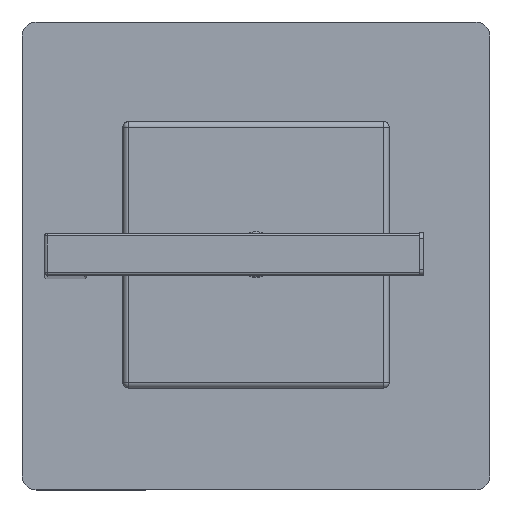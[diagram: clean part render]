
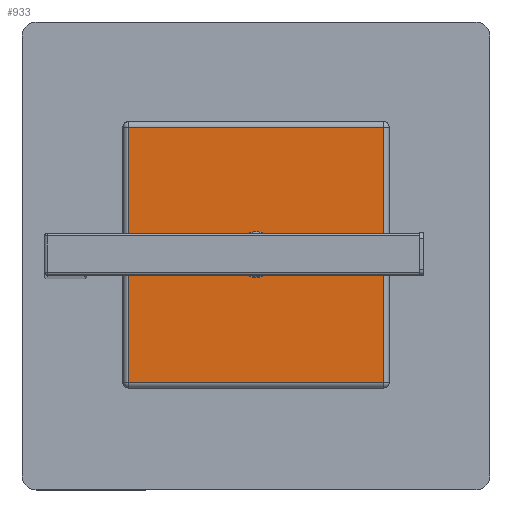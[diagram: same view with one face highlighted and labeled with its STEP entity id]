
A CAD part, top view. The second image highlights one B-rep face of the part: STEP entity #933.
In plain terms, the highlighted planar face has unit normal (0, 0, 1).
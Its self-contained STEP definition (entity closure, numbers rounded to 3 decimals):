
#18 = VERTEX_POINT ( 'NONE', #938 ) ;
#67 = ORIENTED_EDGE ( 'NONE', *, *, #231, .T. ) ;
#89 = DIRECTION ( 'NONE',  ( 1., 0., 0. ) ) ;
#175 = VECTOR ( 'NONE', #871, 1000. ) ;
#201 = CARTESIAN_POINT ( 'NONE',  ( 0., 0., 245. ) ) ;
#226 = CARTESIAN_POINT ( 'NONE',  ( -45.25, -45.25, 245. ) ) ;
#231 = EDGE_CURVE ( 'NONE', #1554, #263, #1505, .T. ) ;
#238 = PLANE ( 'NONE',  #1489 ) ;
#263 = VERTEX_POINT ( 'NONE', #1586 ) ;
#264 = CARTESIAN_POINT ( 'NONE',  ( 45.25, 45.25, 245. ) ) ;
#271 = VECTOR ( 'NONE', #290, 1000. ) ;
#280 = CARTESIAN_POINT ( 'NONE',  ( -45.25, -47.25, 245. ) ) ;
#283 = CARTESIAN_POINT ( 'NONE',  ( 45.25, 47.25, 245. ) ) ;
#290 = DIRECTION ( 'NONE',  ( 0., -1., 0. ) ) ;
#320 = CARTESIAN_POINT ( 'NONE',  ( 0., 0., 245. ) ) ;
#330 = ORIENTED_EDGE ( 'NONE', *, *, #813, .T. ) ;
#370 = VECTOR ( 'NONE', #1055, 1000. ) ;
#375 = EDGE_CURVE ( 'NONE', #1736, #1554, #594, .T. ) ;
#391 = CARTESIAN_POINT ( 'NONE',  ( -47.25, 45.25, 245. ) ) ;
#419 = CARTESIAN_POINT ( 'NONE',  ( 47.25, -45.25, 245. ) ) ;
#455 = CIRCLE ( 'NONE', #1581, 8. ) ;
#472 = DIRECTION ( 'NONE',  ( 1., 0., 0. ) ) ;
#497 = AXIS2_PLACEMENT_3D ( 'NONE', #320, #1385, #472 ) ;
#594 = LINE ( 'NONE', #283, #370 ) ;
#680 = EDGE_CURVE ( 'NONE', #1387, #1736, #1191, .T. ) ;
#698 = CARTESIAN_POINT ( 'NONE',  ( 0., 0., 245. ) ) ;
#799 = EDGE_LOOP ( 'NONE', ( #1172, #1892 ) ) ;
#805 = FACE_BOUND ( 'NONE', #799, .T. ) ;
#813 = EDGE_CURVE ( 'NONE', #263, #1387, #1059, .T. ) ;
#832 = VERTEX_POINT ( 'NONE', #901 ) ;
#871 = DIRECTION ( 'NONE',  ( -1., 0., 0. ) ) ;
#901 = CARTESIAN_POINT ( 'NONE',  ( -8., 0., 245. ) ) ;
#931 = ORIENTED_EDGE ( 'NONE', *, *, #375, .T. ) ;
#933 = ADVANCED_FACE ( 'NONE', ( #1767, #805 ), #238, .T. ) ;
#938 = CARTESIAN_POINT ( 'NONE',  ( 8., 0., 245. ) ) ;
#1020 = DIRECTION ( 'NONE',  ( 1., 0., 0. ) ) ;
#1055 = DIRECTION ( 'NONE',  ( 0., 1., 0. ) ) ;
#1059 = LINE ( 'NONE', #280, #271 ) ;
#1120 = EDGE_LOOP ( 'NONE', ( #1867, #931, #67, #330 ) ) ;
#1160 = DIRECTION ( 'NONE',  ( 0., 0., 1. ) ) ;
#1172 = ORIENTED_EDGE ( 'NONE', *, *, #1201, .F. ) ;
#1191 = LINE ( 'NONE', #419, #1937 ) ;
#1201 = EDGE_CURVE ( 'NONE', #832, #18, #1584, .T. ) ;
#1385 = DIRECTION ( 'NONE',  ( 0., 0., 1. ) ) ;
#1387 = VERTEX_POINT ( 'NONE', #226 ) ;
#1429 = DIRECTION ( 'NONE',  ( 0., 0., 1. ) ) ;
#1441 = DIRECTION ( 'NONE',  ( 1., 0., 0. ) ) ;
#1489 = AXIS2_PLACEMENT_3D ( 'NONE', #698, #1160, #89 ) ;
#1505 = LINE ( 'NONE', #391, #175 ) ;
#1554 = VERTEX_POINT ( 'NONE', #264 ) ;
#1574 = CARTESIAN_POINT ( 'NONE',  ( 45.25, -45.25, 245. ) ) ;
#1581 = AXIS2_PLACEMENT_3D ( 'NONE', #201, #1429, #1441 ) ;
#1584 = CIRCLE ( 'NONE', #497, 8. ) ;
#1586 = CARTESIAN_POINT ( 'NONE',  ( -45.25, 45.25, 245. ) ) ;
#1736 = VERTEX_POINT ( 'NONE', #1574 ) ;
#1740 = EDGE_CURVE ( 'NONE', #18, #832, #455, .T. ) ;
#1767 = FACE_OUTER_BOUND ( 'NONE', #1120, .T. ) ;
#1867 = ORIENTED_EDGE ( 'NONE', *, *, #680, .T. ) ;
#1892 = ORIENTED_EDGE ( 'NONE', *, *, #1740, .F. ) ;
#1937 = VECTOR ( 'NONE', #1020, 1000. ) ;
